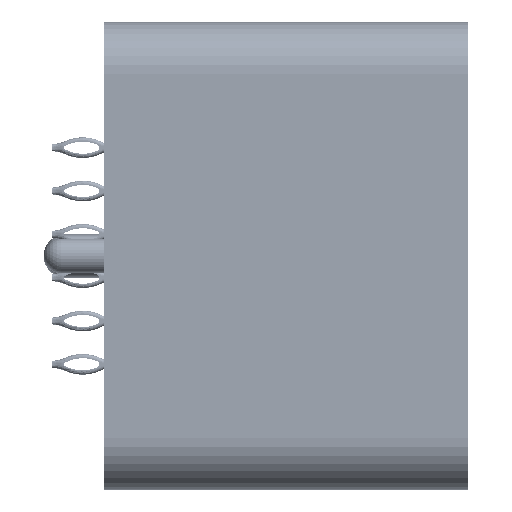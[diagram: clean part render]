
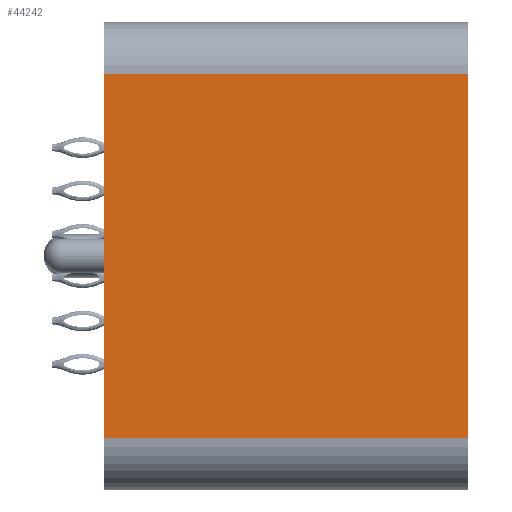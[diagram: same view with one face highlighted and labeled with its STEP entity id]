
A CAD part, left-side view. The second image highlights one B-rep face of the part: STEP entity #44242.
In plain terms, the highlighted planar face has unit normal (-1, 0, 0).
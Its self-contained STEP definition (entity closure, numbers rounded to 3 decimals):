
#44242=ADVANCED_FACE('',(#53264),#50546,.T.);
#50546=PLANE('',#148223);
#53264=FACE_OUTER_BOUND('',#59540,.T.);
#59540=EDGE_LOOP('',(#66302,#66303,#66304,#66305));
#66302=ORIENTED_EDGE('',*,*,#111383,.T.);
#66303=ORIENTED_EDGE('',*,*,#111399,.T.);
#66304=ORIENTED_EDGE('',*,*,#111377,.T.);
#66305=ORIENTED_EDGE('',*,*,#111400,.F.);
#100491=VERTEX_POINT('',#190544);
#100492=VERTEX_POINT('',#190545);
#100497=VERTEX_POINT('',#190556);
#100498=VERTEX_POINT('',#190558);
#111377=EDGE_CURVE('',#100491,#100492,#128438,.T.);
#111383=EDGE_CURVE('',#100498,#100497,#128441,.T.);
#111399=EDGE_CURVE('',#100497,#100491,#128452,.T.);
#111400=EDGE_CURVE('',#100498,#100492,#128453,.T.);
#128438=LINE('',#190543,#138137);
#128441=LINE('',#190557,#138140);
#128452=LINE('',#190589,#138151);
#128453=LINE('',#190590,#138152);
#138137=VECTOR('',#159077,1.);
#138140=VECTOR('',#159088,1.);
#138151=VECTOR('',#159123,1.);
#138152=VECTOR('',#159124,1.);
#148223=AXIS2_PLACEMENT_3D('',#190591,#159125,#159126);
#159077=DIRECTION('',(0.,1.,0.));
#159088=DIRECTION('',(0.,-1.,0.));
#159123=DIRECTION('',(0.,0.,1.));
#159124=DIRECTION('',(0.,0.,1.));
#159125=DIRECTION('',(-1.,0.,0.));
#159126=DIRECTION('',(0.,0.,1.));
#190543=CARTESIAN_POINT('',(-47.35,-14.567,10.5));
#190544=CARTESIAN_POINT('',(-47.35,-21.,10.5));
#190545=CARTESIAN_POINT('',(-47.35,0.,10.5));
#190556=CARTESIAN_POINT('',(-47.35,-21.,-10.5));
#190557=CARTESIAN_POINT('',(-47.35,-14.567,-10.5));
#190558=CARTESIAN_POINT('',(-47.35,0.,-10.5));
#190589=CARTESIAN_POINT('',(-47.35,-21.,-13.5));
#190590=CARTESIAN_POINT('',(-47.35,0.,0.));
#190591=CARTESIAN_POINT('',(-47.35,-9.,-13.5));
